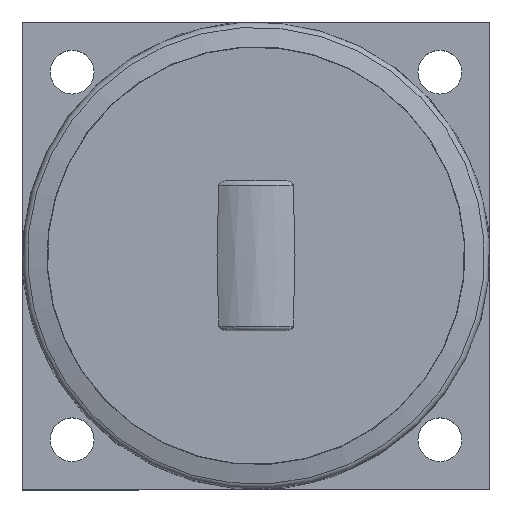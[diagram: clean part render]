
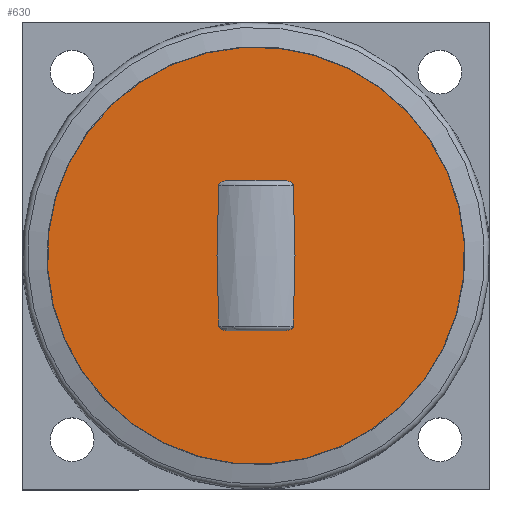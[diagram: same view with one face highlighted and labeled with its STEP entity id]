
A CAD part, top view. The second image highlights one B-rep face of the part: STEP entity #630.
In plain terms, the highlighted planar face has unit normal (0, 0, 1).
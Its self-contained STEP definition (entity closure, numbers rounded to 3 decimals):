
#399=CARTESIAN_POINT('',(-213.186,-116.945,207.16));
#400=VERTEX_POINT('',#399);
#401=CARTESIAN_POINT('',(-180.698,-116.945,207.16));
#402=VERTEX_POINT('',#401);
#403=CARTESIAN_POINT('',(-213.186,-116.945,207.16));
#404=DIRECTION('',(1.0,0.0,0.0));
#405=VECTOR('',#404,32.488);
#406=LINE('',#403,#405);
#407=EDGE_CURVE('',#400,#402,#406,.T.);
#436=CARTESIAN_POINT('',(-174.643,-119.861,207.16));
#437=VERTEX_POINT('',#436);
#438=CARTESIAN_POINT('',(-174.643,-204.029,207.16));
#439=VERTEX_POINT('',#438);
#440=CARTESIAN_POINT('',(-174.643,-119.861,207.16));
#441=CARTESIAN_POINT('',(-173.906,-134.357,207.16));
#442=CARTESIAN_POINT('',(-173.59,-148.701,207.16));
#443=CARTESIAN_POINT('',(-173.59,-175.188,207.16));
#444=CARTESIAN_POINT('',(-173.906,-189.533,207.16));
#445=CARTESIAN_POINT('',(-174.643,-204.029,207.16));
#446=B_SPLINE_CURVE_WITH_KNOTS('',3,(#440,#441,#442,#443,#444,#445),.UNSPECIFIED.,.F.,.U.,(4,2,4),(39.01,42.983,46.956),.UNSPECIFIED.);
#447=EDGE_CURVE('',#437,#439,#446,.T.);
#449=CARTESIAN_POINT('',(-219.241,-119.861,207.16));
#450=VERTEX_POINT('',#449);
#458=CARTESIAN_POINT('',(-219.241,-204.029,207.16));
#459=VERTEX_POINT('',#458);
#460=CARTESIAN_POINT('',(-219.241,-204.029,207.16));
#461=CARTESIAN_POINT('',(-219.978,-189.533,207.16));
#462=CARTESIAN_POINT('',(-220.294,-175.188,207.16));
#463=CARTESIAN_POINT('',(-220.294,-148.701,207.16));
#464=CARTESIAN_POINT('',(-219.978,-134.357,207.16));
#465=CARTESIAN_POINT('',(-219.241,-119.861,207.16));
#466=B_SPLINE_CURVE_WITH_KNOTS('',3,(#460,#461,#462,#463,#464,#465),.UNSPECIFIED.,.F.,.U.,(4,2,4),(10.355,14.328,18.301),.UNSPECIFIED.);
#467=EDGE_CURVE('',#459,#450,#466,.T.);
#484=CARTESIAN_POINT('',(-180.698,-116.945,207.16));
#485=CARTESIAN_POINT('',(-180.202,-116.945,207.16));
#486=CARTESIAN_POINT('',(-179.657,-116.969,207.16));
#487=CARTESIAN_POINT('',(-178.578,-117.092,207.16));
#488=CARTESIAN_POINT('',(-178.043,-117.193,207.16));
#489=CARTESIAN_POINT('',(-176.971,-117.491,207.16));
#490=CARTESIAN_POINT('',(-176.286,-117.77,207.16));
#491=CARTESIAN_POINT('',(-175.444,-118.356,207.16));
#492=CARTESIAN_POINT('',(-175.091,-118.696,207.16));
#493=CARTESIAN_POINT('',(-174.756,-119.284,207.16));
#494=CARTESIAN_POINT('',(-174.657,-119.586,207.16));
#495=CARTESIAN_POINT('',(-174.643,-119.861,207.16));
#496=B_SPLINE_CURVE_WITH_KNOTS('',3,(#484,#485,#486,#487,#488,#489,#490,#491,#492,#493,#494,#495),.UNSPECIFIED.,.F.,.U.,(4,2,2,2,2,4),(2.605,2.754,2.903,3.088,3.21,3.291),.UNSPECIFIED.);
#497=EDGE_CURVE('',#402,#437,#496,.T.);
#500=CARTESIAN_POINT('',(-219.241,-119.861,207.16));
#501=CARTESIAN_POINT('',(-219.227,-119.586,207.16));
#502=CARTESIAN_POINT('',(-219.128,-119.284,207.16));
#503=CARTESIAN_POINT('',(-218.793,-118.696,207.16));
#504=CARTESIAN_POINT('',(-218.44,-118.356,207.16));
#505=CARTESIAN_POINT('',(-217.599,-117.77,207.16));
#506=CARTESIAN_POINT('',(-216.913,-117.491,207.16));
#507=CARTESIAN_POINT('',(-215.841,-117.193,207.16));
#508=CARTESIAN_POINT('',(-215.307,-117.092,207.16));
#509=CARTESIAN_POINT('',(-214.227,-116.969,207.16));
#510=CARTESIAN_POINT('',(-213.682,-116.945,207.16));
#511=CARTESIAN_POINT('',(-213.186,-116.945,207.16));
#512=B_SPLINE_CURVE_WITH_KNOTS('',3,(#500,#501,#502,#503,#504,#505,#506,#507,#508,#509,#510,#511),.UNSPECIFIED.,.F.,.U.,(4,2,2,2,2,4),(0.008,0.089,0.211,0.396,0.545,0.694),.UNSPECIFIED.);
#513=EDGE_CURVE('',#450,#400,#512,.T.);
#524=CARTESIAN_POINT('',(-180.698,-206.945,207.16));
#525=VERTEX_POINT('',#524);
#526=CARTESIAN_POINT('',(-213.186,-206.945,207.16));
#527=VERTEX_POINT('',#526);
#528=CARTESIAN_POINT('',(-180.698,-206.945,207.16));
#529=DIRECTION('',(-1.0,0.0,0.0));
#530=VECTOR('',#529,32.488);
#531=LINE('',#528,#530);
#532=EDGE_CURVE('',#525,#527,#531,.T.);
#549=CARTESIAN_POINT('',(-174.643,-204.029,207.16));
#550=CARTESIAN_POINT('',(-174.657,-204.304,207.16));
#551=CARTESIAN_POINT('',(-174.756,-204.605,207.16));
#552=CARTESIAN_POINT('',(-175.091,-205.193,207.16));
#553=CARTESIAN_POINT('',(-175.444,-205.534,207.16));
#554=CARTESIAN_POINT('',(-176.286,-206.119,207.16));
#555=CARTESIAN_POINT('',(-176.971,-206.398,207.16));
#556=CARTESIAN_POINT('',(-178.043,-206.697,207.16));
#557=CARTESIAN_POINT('',(-178.578,-206.797,207.16));
#558=CARTESIAN_POINT('',(-179.657,-206.921,207.16));
#559=CARTESIAN_POINT('',(-180.202,-206.945,207.16));
#560=CARTESIAN_POINT('',(-180.698,-206.945,207.16));
#561=B_SPLINE_CURVE_WITH_KNOTS('',3,(#549,#550,#551,#552,#553,#554,#555,#556,#557,#558,#559,#560),.UNSPECIFIED.,.F.,.U.,(4,2,2,2,2,4),(0.008,0.089,0.211,0.396,0.545,0.694),.UNSPECIFIED.);
#562=EDGE_CURVE('',#439,#525,#561,.T.);
#565=CARTESIAN_POINT('',(-213.186,-206.945,207.16));
#566=CARTESIAN_POINT('',(-213.682,-206.945,207.16));
#567=CARTESIAN_POINT('',(-214.227,-206.921,207.16));
#568=CARTESIAN_POINT('',(-215.307,-206.797,207.16));
#569=CARTESIAN_POINT('',(-215.841,-206.697,207.16));
#570=CARTESIAN_POINT('',(-216.913,-206.398,207.16));
#571=CARTESIAN_POINT('',(-217.599,-206.119,207.16));
#572=CARTESIAN_POINT('',(-218.44,-205.534,207.16));
#573=CARTESIAN_POINT('',(-218.793,-205.193,207.16));
#574=CARTESIAN_POINT('',(-219.128,-204.605,207.16));
#575=CARTESIAN_POINT('',(-219.227,-204.304,207.16));
#576=CARTESIAN_POINT('',(-219.241,-204.029,207.16));
#577=B_SPLINE_CURVE_WITH_KNOTS('',3,(#565,#566,#567,#568,#569,#570,#571,#572,#573,#574,#575,#576),.UNSPECIFIED.,.F.,.U.,(4,2,2,2,2,4),(2.607,2.755,2.904,3.089,3.212,3.292),.UNSPECIFIED.);
#578=EDGE_CURVE('',#527,#459,#577,.T.);
#600=CARTESIAN_POINT('',(-84.985,-217.241,207.16));
#601=VERTEX_POINT('',#600);
#602=CARTESIAN_POINT('',(-196.942,-161.945,207.16));
#603=DIRECTION('',(0.,0.,-1.0));
#604=DIRECTION('',(-0.897,0.443,0.));
#605=AXIS2_PLACEMENT_3D('',#602,#603,#604);
#606=CIRCLE('',#605,124.868);
#607=EDGE_CURVE('',#601,#601,#606,.T.);
#612=CARTESIAN_POINT('',(-93.385,-213.093,207.16));
#613=DIRECTION('',(0.,0.,1.0));
#614=DIRECTION('',(-0.443,-0.897,0.));
#615=AXIS2_PLACEMENT_3D('',#612,#613,#614);
#616=PLANE('',#615);
#617=ORIENTED_EDGE('',*,*,#607,.F.);
#618=EDGE_LOOP('',(#617));
#619=FACE_OUTER_BOUND('',#618,.T.);
#620=ORIENTED_EDGE('',*,*,#513,.T.);
#621=ORIENTED_EDGE('',*,*,#407,.T.);
#622=ORIENTED_EDGE('',*,*,#497,.T.);
#623=ORIENTED_EDGE('',*,*,#447,.T.);
#624=ORIENTED_EDGE('',*,*,#562,.T.);
#625=ORIENTED_EDGE('',*,*,#532,.T.);
#626=ORIENTED_EDGE('',*,*,#578,.T.);
#627=ORIENTED_EDGE('',*,*,#467,.T.);
#628=EDGE_LOOP('',(#620,#621,#622,#623,#624,#625,#626,#627));
#629=FACE_BOUND('',#628,.T.);
#630=ADVANCED_FACE('',(#619,#629),#616,.T.);
